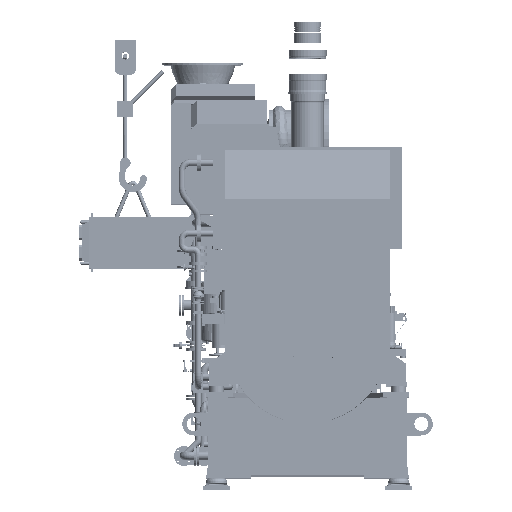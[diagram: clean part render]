
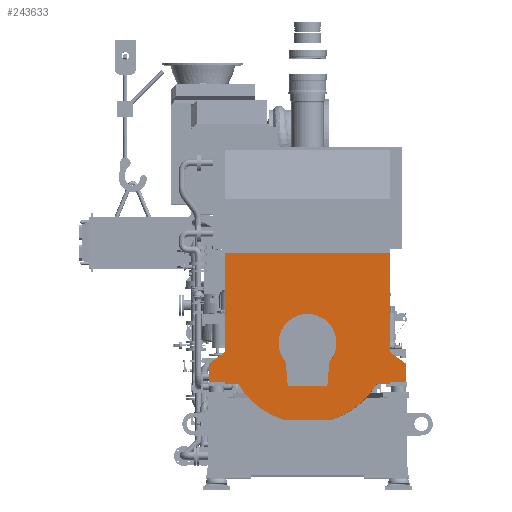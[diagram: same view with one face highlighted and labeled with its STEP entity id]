
A CAD part, top view. The second image highlights one B-rep face of the part: STEP entity #243633.
In plain terms, the highlighted planar face has unit normal (0, 0, 1).
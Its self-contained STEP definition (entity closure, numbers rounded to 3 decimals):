
#241121=DIRECTION('',(0.,-1.,0.));
#241122=VECTOR('',#241121,920.745);
#241123=CARTESIAN_POINT('',(-771.,834.,3440.));
#241124=LINE('',#241123,#241122);
#241141=DIRECTION('',(0.,-1.,0.));
#241142=VECTOR('',#241141,15.);
#241143=CARTESIAN_POINT('',(-771.,-365.,3440.));
#241144=LINE('',#241143,#241142);
#241221=DIRECTION('',(-0.809,0.588,0.));
#241222=VECTOR('',#241221,184.174);
#241223=CARTESIAN_POINT('',(920.,-195.,3440.));
#241224=LINE('',#241223,#241222);
#241225=DIRECTION('',(0.,1.,0.));
#241226=VECTOR('',#241225,170.);
#241227=CARTESIAN_POINT('',(920.,-365.,3440.));
#241228=LINE('',#241227,#241226);
#241229=DIRECTION('',(1.,0.,0.));
#241230=VECTOR('',#241229,149.);
#241231=CARTESIAN_POINT('',(771.,-365.,3440.));
#241232=LINE('',#241231,#241230);
#241233=CARTESIAN_POINT('',(0.,0.,3440.));
#241234=DIRECTION('',(0.,0.,-1.));
#241235=DIRECTION('',(0.862,-0.507,0.));
#241236=AXIS2_PLACEMENT_3D('',#241233,#241234,#241235);
#241238=DIRECTION('',(-1.,0.,0.));
#241239=VECTOR('',#241238,452.88);
#241240=CARTESIAN_POINT('',(226.44,-715.,3440.));
#241241=LINE('',#241240,#241239);
#241242=CARTESIAN_POINT('',(0.,0.,3440.));
#241243=DIRECTION('',(0.,0.,-1.));
#241244=DIRECTION('',(-0.302,-0.953,0.));
#241245=AXIS2_PLACEMENT_3D('',#241242,#241243,#241244);
#241247=DIRECTION('',(-1.,0.,0.));
#241248=VECTOR('',#241247,149.);
#241249=CARTESIAN_POINT('',(-771.,-365.,3440.));
#241250=LINE('',#241249,#241248);
#241251=DIRECTION('',(0.,1.,0.));
#241252=VECTOR('',#241251,170.);
#241253=CARTESIAN_POINT('',(-920.,-365.,3440.));
#241254=LINE('',#241253,#241252);
#241255=DIRECTION('',(0.809,0.588,0.));
#241256=VECTOR('',#241255,184.174);
#241257=CARTESIAN_POINT('',(-920.,-195.,3440.));
#241258=LINE('',#241257,#241256);
#241259=DIRECTION('',(1.,0.,0.));
#241260=VECTOR('',#241259,1542.);
#241261=CARTESIAN_POINT('',(-771.,834.,3440.));
#241262=LINE('',#241261,#241260);
#241263=DIRECTION('',(0.088,-0.996,0.));
#241264=VECTOR('',#241263,224.198);
#241265=CARTESIAN_POINT('',(-204.176,-176.669,3440.));
#241266=LINE('',#241265,#241264);
#241267=DIRECTION('',(1.,0.,0.));
#241268=VECTOR('',#241267,368.941);
#241269=CARTESIAN_POINT('',(-184.471,-400.,3440.));
#241270=LINE('',#241269,#241268);
#241271=DIRECTION('',(0.088,0.996,0.));
#241272=VECTOR('',#241271,224.198);
#241273=CARTESIAN_POINT('',(184.471,-400.,3440.));
#241274=LINE('',#241273,#241272);
#241275=CARTESIAN_POINT('',(0.,0.,3440.));
#241276=DIRECTION('',(0.,0.,1.));
#241277=DIRECTION('',(0.756,-0.654,0.));
#241278=AXIS2_PLACEMENT_3D('',#241275,#241276,#241277);
#241292=DIRECTION('',(0.,-1.,0.));
#241293=VECTOR('',#241292,920.745);
#241294=CARTESIAN_POINT('',(771.,834.,3440.));
#241295=LINE('',#241294,#241293);
#241408=DIRECTION('',(0.,-1.,0.));
#241409=VECTOR('',#241408,15.);
#241410=CARTESIAN_POINT('',(771.,-365.,3440.));
#241411=LINE('',#241410,#241409);
#241496=DIRECTION('',(1.,0.,0.));
#241497=VECTOR('',#241496,124.393);
#241498=CARTESIAN_POINT('',(-771.,-380.,3440.));
#241499=LINE('',#241498,#241497);
#241536=DIRECTION('',(1.,0.,0.));
#241537=VECTOR('',#241536,124.393);
#241538=CARTESIAN_POINT('',(646.607,-380.,3440.));
#241539=LINE('',#241538,#241537);
#242841=CARTESIAN_POINT('',(-771.,834.,3440.));
#242842=VERTEX_POINT('',#242841);
#242857=CARTESIAN_POINT('',(771.,834.,3440.));
#242858=VERTEX_POINT('',#242857);
#242887=CARTESIAN_POINT('',(226.44,-715.,3440.));
#242888=CARTESIAN_POINT('',(-226.44,-715.,3440.));
#242889=VERTEX_POINT('',#242887);
#242890=VERTEX_POINT('',#242888);
#242891=CARTESIAN_POINT('',(646.607,-380.,3440.));
#242893=VERTEX_POINT('',#242891);
#242895=CARTESIAN_POINT('',(-646.607,-380.,3440.));
#242897=VERTEX_POINT('',#242895);
#242899=CARTESIAN_POINT('',(-771.,-380.,3440.));
#242900=VERTEX_POINT('',#242899);
#242901=CARTESIAN_POINT('',(771.,-380.,3440.));
#242902=VERTEX_POINT('',#242901);
#243035=CARTESIAN_POINT('',(-920.,-365.,3440.));
#243036=CARTESIAN_POINT('',(-920.,-195.,3440.));
#243037=VERTEX_POINT('',#243035);
#243038=VERTEX_POINT('',#243036);
#243041=CARTESIAN_POINT('',(-771.,-86.745,3440.));
#243043=VERTEX_POINT('',#243041);
#243045=CARTESIAN_POINT('',(-771.,-365.,3440.));
#243046=VERTEX_POINT('',#243045);
#243071=CARTESIAN_POINT('',(920.,-365.,3440.));
#243072=CARTESIAN_POINT('',(920.,-195.,3440.));
#243073=VERTEX_POINT('',#243071);
#243074=VERTEX_POINT('',#243072);
#243079=CARTESIAN_POINT('',(771.,-365.,3440.));
#243080=VERTEX_POINT('',#243079);
#243081=CARTESIAN_POINT('',(771.,-86.745,3440.));
#243082=VERTEX_POINT('',#243081);
#243235=CARTESIAN_POINT('',(-204.176,-176.669,3440.));
#243236=CARTESIAN_POINT('',(-184.471,-400.,3440.));
#243237=VERTEX_POINT('',#243235);
#243238=VERTEX_POINT('',#243236);
#243239=CARTESIAN_POINT('',(184.471,-400.,3440.));
#243240=VERTEX_POINT('',#243239);
#243241=CARTESIAN_POINT('',(204.176,-176.669,3440.));
#243242=VERTEX_POINT('',#243241);
#243587=CARTESIAN_POINT('',(-771.,834.,3440.));
#243588=DIRECTION('',(0.,0.,1.));
#243589=DIRECTION('',(0.,-1.,0.));
#243590=AXIS2_PLACEMENT_3D('',#243587,#243588,#243589);
#243591=PLANE('',#243590);
#243593=ORIENTED_EDGE('',*,*,#243592,.T.);
#243595=ORIENTED_EDGE('',*,*,#243594,.F.);
#243597=ORIENTED_EDGE('',*,*,#243596,.F.);
#243599=ORIENTED_EDGE('',*,*,#243598,.F.);
#243601=ORIENTED_EDGE('',*,*,#243600,.T.);
#243603=ORIENTED_EDGE('',*,*,#243602,.F.);
#243605=ORIENTED_EDGE('',*,*,#243604,.T.);
#243607=ORIENTED_EDGE('',*,*,#243606,.T.);
#243609=ORIENTED_EDGE('',*,*,#243608,.T.);
#243611=ORIENTED_EDGE('',*,*,#243610,.F.);
#243612=ORIENTED_EDGE('',*,*,#243490,.F.);
#243614=ORIENTED_EDGE('',*,*,#243613,.T.);
#243616=ORIENTED_EDGE('',*,*,#243615,.T.);
#243617=ORIENTED_EDGE('',*,*,#243579,.T.);
#243618=ORIENTED_EDGE('',*,*,#243462,.F.);
#243620=ORIENTED_EDGE('',*,*,#243619,.T.);
#243621=EDGE_LOOP('',(#243593,#243595,#243597,#243599,#243601,#243603,#243605,
#243607,#243609,#243611,#243612,#243614,#243616,#243617,#243618,#243620));
#243622=FACE_OUTER_BOUND('',#243621,.F.);
#243624=ORIENTED_EDGE('',*,*,#243623,.T.);
#243626=ORIENTED_EDGE('',*,*,#243625,.T.);
#243628=ORIENTED_EDGE('',*,*,#243627,.T.);
#243630=ORIENTED_EDGE('',*,*,#243629,.T.);
#243631=EDGE_LOOP('',(#243624,#243626,#243628,#243630));
#243632=FACE_BOUND('',#243631,.F.);
#243633=ADVANCED_FACE('',(#243622,#243632),#243591,.T.);
#241237=CIRCLE('',#241236,750.);
#241246=CIRCLE('',#241245,750.);
#241279=CIRCLE('',#241278,270.);
#243462=EDGE_CURVE('',#242842,#243043,#241124,.T.);
#243490=EDGE_CURVE('',#243046,#242900,#241144,.T.);
#243579=EDGE_CURVE('',#243038,#243043,#241258,.T.);
#243592=EDGE_CURVE('',#242858,#243082,#241295,.T.);
#243594=EDGE_CURVE('',#243074,#243082,#241224,.T.);
#243596=EDGE_CURVE('',#243073,#243074,#241228,.T.);
#243598=EDGE_CURVE('',#243080,#243073,#241232,.T.);
#243600=EDGE_CURVE('',#243080,#242902,#241411,.T.);
#243602=EDGE_CURVE('',#242893,#242902,#241539,.T.);
#243604=EDGE_CURVE('',#242893,#242889,#241237,.T.);
#243606=EDGE_CURVE('',#242889,#242890,#241241,.T.);
#243608=EDGE_CURVE('',#242890,#242897,#241246,.T.);
#243610=EDGE_CURVE('',#242900,#242897,#241499,.T.);
#243613=EDGE_CURVE('',#243046,#243037,#241250,.T.);
#243615=EDGE_CURVE('',#243037,#243038,#241254,.T.);
#243619=EDGE_CURVE('',#242842,#242858,#241262,.T.);
#243623=EDGE_CURVE('',#243237,#243238,#241266,.T.);
#243625=EDGE_CURVE('',#243238,#243240,#241270,.T.);
#243627=EDGE_CURVE('',#243240,#243242,#241274,.T.);
#243629=EDGE_CURVE('',#243242,#243237,#241279,.T.);
